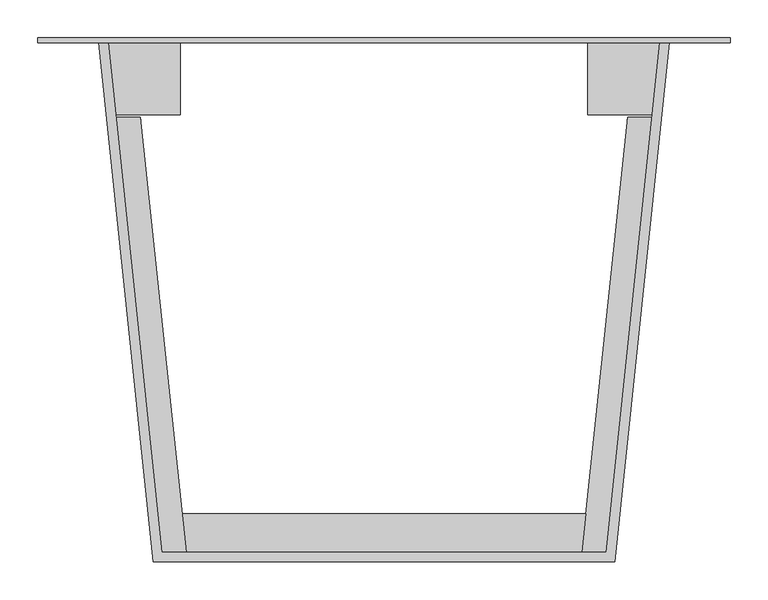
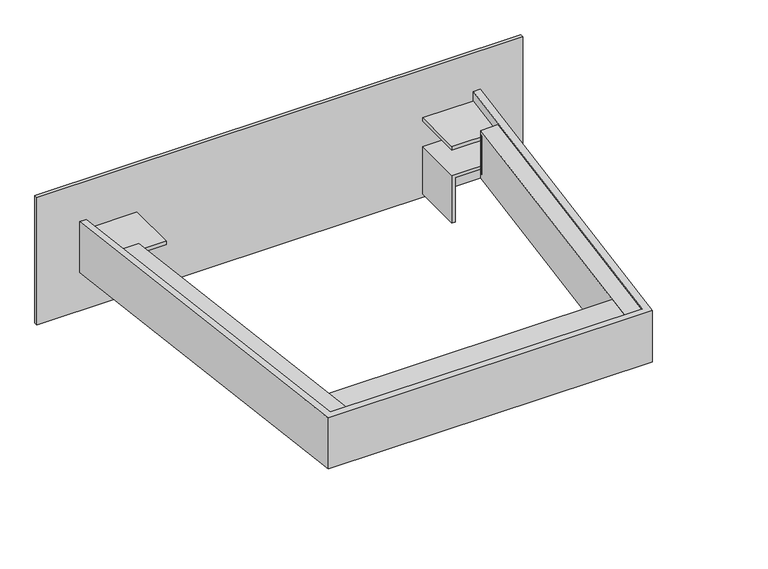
"""IFC4 building model written with IfcOpenShell, lengths in millimetres: proxy geometry, IMPRESS^TABLE 7_24in BASE-PARTS SOLID."""

from ifc_helpers import new_model, si_unit, point, frame, frame_2d, origin, place, context, project, spatial, polyline, circle_curve, trimmed, segment, composite_curve, outline, extrude, faceted_brep, source, transform, mapped, element, save


def generic_models_fdab1e62(model_context):
    return source(origin(), model_context, "Body", "SolidModel", [
        extrude(outline(polyline([(-48.965645, 587.375), (-17.0407572, 587.375), (43.3600192, 12.7), (11.4351314, 12.7), (-48.965645, 587.375)])), frame((0.0, 0.0, 3.175), z_axis=(0.0, 0.0, 1.0), x_axis=(1.0, 0.0, 0.0)), (0.0, 0.0, 1.0), 95.25),
        extrude(outline(polyline([(571.5792759, 63.5), (566.2399808, 12.7), (43.3600192, 12.7), (38.0207241, 63.5), (571.5792759, 63.5)])), frame((0.0, 0.0, 3.175), z_axis=(0.0, 0.0, 1.0), x_axis=(1.0, 0.0, 0.0)), (0.0, 0.0, 1.0), 95.25),
        extrude(outline(composite_curve([segment(trimmed(circle_curve(frame_2d((627.324578, 586.61554)), 0.75946), [point((626.5692784, 586.6949252))], [point((628.0798776, 586.5361548))], False, "CARTESIAN"), True, "CONTINUOUS"), segment(polyline([(628.0798776, 586.5361548), (627.8343379, 584.2), (626.3070512, 584.2), (626.5692784, 586.6949252)]), True, "CONTINUOUS")], self_intersect=False)), frame((0.0, 0.0, 12.7), z_axis=(0.0, 0.0, 1.0), x_axis=(1.0, 0.0, 0.0)), (0.0, 0.0, 1.0), 76.2),
        extrude(outline(composite_curve([segment(trimmed(circle_curve(frame_2d((-17.724578, 586.61554)), 0.75946), [point((-18.4798776, 586.5361548))], [point((-16.9692784, 586.6949252))], False, "CARTESIAN"), True, "CONTINUOUS"), segment(polyline([(-16.9692784, 586.6949252), (-16.7070512, 584.2), (-18.2343379, 584.2), (-18.4798776, 586.5361548)]), True, "CONTINUOUS")], self_intersect=False)), frame((0.0, 0.0, 12.7), z_axis=(0.0, 0.0, 1.0), x_axis=(1.0, 0.0, 0.0)), (0.0, 0.0, 1.0), 76.2),
        extrude(outline(polyline([(626.6407572, 587.375), (658.565645, 587.375), (598.1648686, 12.7), (566.2399808, 12.7), (626.6407572, 587.375)])), frame((0.0, 0.0, 3.175), z_axis=(0.0, 0.0, 1.0), x_axis=(1.0, 0.0, 0.0)), (0.0, 0.0, 1.0), 95.25),
        faceted_brep([(0.0, 0.0, 0.0), (609.6, 0.0, 0.0), (609.6, 0.0, 101.6), (0.0, 0.0, 101.6), (598.1648686, 12.7, 0.0), (11.4351314, 12.7, 0.0), (11.4351314, 12.7, 101.6), (598.1648686, 12.7, 101.6), (762.0, 692.15, 177.8), (762.0, 692.15, -76.2), (-152.4, 692.15, -76.2), (-152.4, 692.15, 177.8), (762.0, 685.8, -76.2), (762.0, 685.8, 177.8), (-152.4, 685.8, 177.8), (-152.4, 685.8, -76.2), (29.5894706, 685.8, -69.85), (29.5894706, 685.8, 19.05), (-59.3105294, 685.8, 19.05), (-59.3105294, 685.8, 0.0), (-72.0804845, 685.8, 0.0), (-72.0804845, 685.8, 101.6), (-59.3105294, 685.8, 101.6), (-59.3105294, 685.8, 82.55), (35.9394706, 685.8, 82.55), (35.9394706, 685.8, 76.2), (-59.3105294, 685.8, 76.2), (-59.3105294, 685.8, 25.4), (35.9394706, 685.8, 25.4), (35.9394706, 685.8, -69.85), (580.0105294, 685.8, 19.05), (580.0105294, 685.8, -69.85), (573.6605294, 685.8, -69.85), (573.6605294, 685.8, 25.4), (668.9105294, 685.8, 25.4), (668.9105294, 685.8, 76.2), (573.6605294, 685.8, 76.2), (573.6605294, 685.8, 82.55), (668.9105294, 685.8, 82.55), (668.9105294, 685.8, 101.6), (681.6804845, 685.8, 101.6), (681.6804845, 685.8, 0.0), (668.9105294, 685.8, 0.0), (668.9105294, 685.8, 19.05), (658.899351, 590.55, 76.2), (573.6605294, 590.55, 76.2), (658.899351, 590.55, 82.55), (573.6605294, 590.55, 82.55), (658.899351, 590.55, 25.4), (573.6605294, 590.55, 25.4), (658.899351, 590.55, 19.05), (580.0105294, 590.55, 19.05), (-49.299351, 590.55, 82.55), (35.9394706, 590.55, 82.55), (-49.299351, 590.55, 76.2), (35.9394706, 590.55, 76.2), (-49.299351, 590.55, 25.4), (35.9394706, 590.55, 25.4), (-49.299351, 590.55, 19.05), (29.5894706, 590.55, 19.05), (580.0105294, 590.55, -69.85), (573.6605294, 590.55, -69.85), (35.9394706, 590.55, -69.85), (29.5894706, 590.55, -69.85)], [[[0, 1, 2, 3]], [[4, 5, 6, 7]], [[8, 9, 10, 11]], [[12, 13, 14, 15], [16, 17, 18, 19, 20, 21, 22, 23, 24, 25, 26, 27, 28, 29], [30, 31, 32, 33, 34, 35, 36, 37, 38, 39, 40, 41, 42, 43]], [[35, 44, 45, 36]], [[46, 38, 37, 47]], [[48, 34, 33, 49]], [[43, 50, 51, 30]], [[23, 52, 53, 24]], [[54, 26, 25, 55]], [[27, 56, 57, 28]], [[58, 18, 17, 59]], [[31, 30, 51, 60]], [[33, 32, 61, 49]], [[29, 28, 57, 62]], [[17, 16, 63, 59]], [[12, 15, 10, 9]], [[14, 13, 8, 11]], [[25, 24, 53, 55]], [[52, 54, 55, 53]], [[50, 48, 49, 61, 60, 51]], [[32, 31, 60, 61]], [[56, 58, 59, 63, 62, 57]], [[16, 29, 62, 63]], [[37, 36, 45, 47]], [[44, 46, 47, 45]], [[26, 54, 52, 23, 22, 6, 5, 19, 18, 58, 56, 27]], [[15, 14, 11, 10]], [[13, 12, 9, 8]], [[1, 41, 40, 2]], [[20, 0, 3, 21]], [[50, 43, 42, 4, 7, 39, 38, 46, 44, 35, 34, 48]], [[40, 39, 7, 6, 22, 21, 3, 2]], [[42, 41, 1, 0, 20, 19, 5, 4]]]),
    ])


if __name__ == "__main__":
    model = new_model("IFC4")
    model_context = context("Model", 3, world=origin())
    ifc_project = project(units=[si_unit("LENGTHUNIT", "METRE", prefix="MILLI")], contexts=[model_context])
    site = spatial("IfcSite", under=ifc_project)
    building = spatial("IfcBuilding", under=site)
    placement = place(None, origin())
    generic_models_shape = generic_models_fdab1e62(model_context)
    element("IfcBuildingElementProxy", 1, Name="IMPRESS^TABLE 7_24in BASE-PARTS SOLID", ObjectType="IMPRESS^TABLE 7_24in BASE-PARTS SOLID", at=placement, inside=building, context=model_context, shape_type="MappedRepresentation", body=[
        mapped(generic_models_shape, transform((0.0, 0.0, 0.0), x_axis=(1.0, 0.0, 0.0), y_axis=(0.0, 1.0, 0.0), z_axis=(0.0, 0.0, 1.0))),
    ])
    save(model, "model.ifc")
